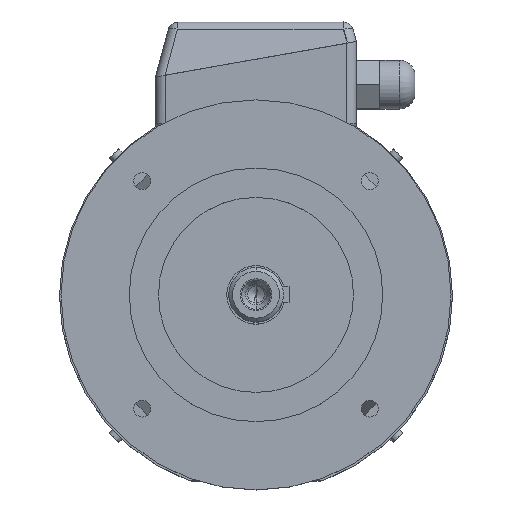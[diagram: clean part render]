
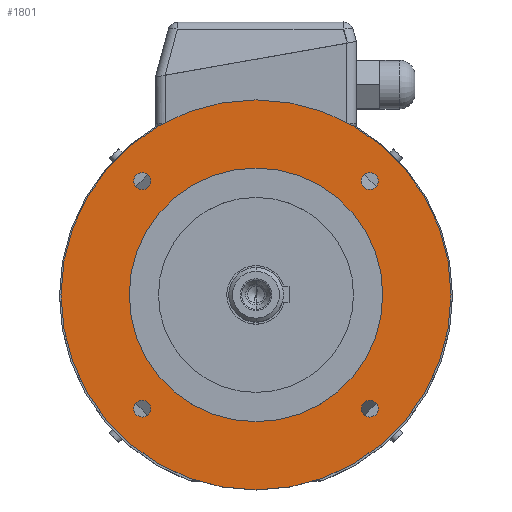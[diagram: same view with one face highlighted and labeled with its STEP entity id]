
A CAD part, top view. The second image highlights one B-rep face of the part: STEP entity #1801.
In plain terms, the highlighted planar face has unit normal (0, 0, 1).
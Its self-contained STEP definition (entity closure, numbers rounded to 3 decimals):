
#75 = CARTESIAN_POINT ( 'NONE',  ( 62.636, -58.336, 45. ) ) ;
#84 = EDGE_LOOP ( 'NONE', ( #18561, #16816 ) ) ;
#16586 = EDGE_LOOP ( 'NONE', ( #15970, #17545 ) ) ;
#325 = EDGE_CURVE ( 'NONE', #10749, #12081, #15064, .T. ) ;
#369 = ORIENTED_EDGE ( 'NONE', *, *, #14392, .F. ) ;
#16816 = ORIENTED_EDGE ( 'NONE', *, *, #2216, .T. ) ;
#451 = CIRCLE ( 'NONE', #452, 4.3 ) ;
#452 = AXIS2_PLACEMENT_3D ( 'NONE', #453, #460, #461 ) ;
#453 = CARTESIAN_POINT ( 'NONE',  ( 58.336, -58.336, 45. ) ) ;
#460 = DIRECTION ( 'NONE',  ( 0., 0., 1. ) ) ;
#461 = DIRECTION ( 'NONE',  ( 1., 0., 0. ) ) ;
#17156 = EDGE_CURVE ( 'NONE', #14751, #9347, #12029, .T. ) ;
#973 = EDGE_CURVE ( 'NONE', #14339, #12911, #15521, .T. ) ;
#17545 = ORIENTED_EDGE ( 'NONE', *, *, #17156, .F. ) ;
#1225 = CARTESIAN_POINT ( 'NONE',  ( 54.036, -58.336, 45. ) ) ;
#17670 = CIRCLE ( 'NONE', #17671, 4.3 ) ;
#17671 = AXIS2_PLACEMENT_3D ( 'NONE', #17672, #17673, #17674 ) ;
#17672 = CARTESIAN_POINT ( 'NONE',  ( 58.336, -58.336, 45. ) ) ;
#17673 = DIRECTION ( 'NONE',  ( 0., 0., 1. ) ) ;
#17674 = DIRECTION ( 'NONE',  ( 1., 0., 0. ) ) ;
#17724 = CARTESIAN_POINT ( 'NONE',  ( 0., 65., 45. ) ) ;
#17949 = CIRCLE ( 'NONE', #17950, 65. ) ;
#17950 = AXIS2_PLACEMENT_3D ( 'NONE', #17951, #17952, #17953 ) ;
#17951 = CARTESIAN_POINT ( 'NONE',  ( 0., 0., 45. ) ) ;
#17952 = DIRECTION ( 'NONE',  ( 0., 0., -1. ) ) ;
#17953 = DIRECTION ( 'NONE',  ( 0., 1., 0. ) ) ;
#1801 = ADVANCED_FACE ( 'NONE', ( #15989, #15990, #15991, #15992, #15993, #15994 ), #15995, .T. ) ;
#2088 = ORIENTED_EDGE ( 'NONE', *, *, #973, .F. ) ;
#18561 = ORIENTED_EDGE ( 'NONE', *, *, #3802, .T. ) ;
#18562 = EDGE_LOOP ( 'NONE', ( #3804, #2784 ) ) ;
#2216 = EDGE_CURVE ( 'NONE', #15371, #3530, #16265, .T. ) ;
#18849 = ORIENTED_EDGE ( 'NONE', *, *, #11008, .F. ) ;
#2500 = EDGE_LOOP ( 'NONE', ( #2088, #369 ) ) ;
#2784 = ORIENTED_EDGE ( 'NONE', *, *, #5931, .F. ) ;
#2984 = CARTESIAN_POINT ( 'NONE',  ( 0., 100., 45. ) ) ;
#3240 = CIRCLE ( 'NONE', #3241, 100. ) ;
#3241 = AXIS2_PLACEMENT_3D ( 'NONE', #3242, #3243, #3244 ) ;
#3242 = CARTESIAN_POINT ( 'NONE',  ( 0., 0., 45. ) ) ;
#3243 = DIRECTION ( 'NONE',  ( 0., 0., -1. ) ) ;
#3244 = DIRECTION ( 'NONE',  ( 0., 1., 0. ) ) ;
#3408 = EDGE_CURVE ( 'NONE', #5669, #7150, #17670, .T. ) ;
#3433 = ORIENTED_EDGE ( 'NONE', *, *, #325, .F. ) ;
#3530 = VERTEX_POINT ( 'NONE', #17724 ) ;
#3802 = EDGE_CURVE ( 'NONE', #3530, #15371, #17949, .T. ) ;
#3804 = ORIENTED_EDGE ( 'NONE', *, *, #3408, .F. ) ;
#3927 = CIRCLE ( 'NONE', #3928, 4.3 ) ;
#3928 = AXIS2_PLACEMENT_3D ( 'NONE', #3935, #3936, #3937 ) ;
#3935 = CARTESIAN_POINT ( 'NONE',  ( -58.336, 58.336, 45. ) ) ;
#3936 = DIRECTION ( 'NONE',  ( 0., 0., 1. ) ) ;
#3937 = DIRECTION ( 'NONE',  ( 1., 0., 0. ) ) ;
#4251 = CARTESIAN_POINT ( 'NONE',  ( -54.036, -58.336, 45. ) ) ;
#4395 = CIRCLE ( 'NONE', #4396, 4.3 ) ;
#4396 = AXIS2_PLACEMENT_3D ( 'NONE', #4397, #4398, #4399 ) ;
#4397 = CARTESIAN_POINT ( 'NONE',  ( -58.336, -58.336, 45. ) ) ;
#4398 = DIRECTION ( 'NONE',  ( 0., 0., 1. ) ) ;
#4399 = DIRECTION ( 'NONE',  ( 1., 0., 0. ) ) ;
#5411 = CARTESIAN_POINT ( 'NONE',  ( -62.636, -58.336, 45. ) ) ;
#5669 = VERTEX_POINT ( 'NONE', #75 ) ;
#5931 = EDGE_CURVE ( 'NONE', #7150, #5669, #451, .T. ) ;
#6310 = CARTESIAN_POINT ( 'NONE',  ( 54.036, 58.336, 45. ) ) ;
#6668 = CARTESIAN_POINT ( 'NONE',  ( -54.036, 58.336, 45. ) ) ;
#7150 = VERTEX_POINT ( 'NONE', #1225 ) ;
#7351 = CIRCLE ( 'NONE', #7352, 4.3 ) ;
#7352 = AXIS2_PLACEMENT_3D ( 'NONE', #7353, #7354, #7355 ) ;
#7353 = CARTESIAN_POINT ( 'NONE',  ( -58.336, 58.336, 45. ) ) ;
#7354 = DIRECTION ( 'NONE',  ( 0., 0., 1. ) ) ;
#7355 = DIRECTION ( 'NONE',  ( 1., 0., 0. ) ) ;
#8111 = CARTESIAN_POINT ( 'NONE',  ( -62.636, 58.336, 45. ) ) ;
#8418 = CARTESIAN_POINT ( 'NONE',  ( 62.636, 58.336, 45. ) ) ;
#8682 = CIRCLE ( 'NONE', #8683, 4.3 ) ;
#8683 = AXIS2_PLACEMENT_3D ( 'NONE', #8684, #8685, #8686 ) ;
#8684 = CARTESIAN_POINT ( 'NONE',  ( 58.336, 58.336, 45. ) ) ;
#8685 = DIRECTION ( 'NONE',  ( 0., 0., 1. ) ) ;
#8686 = DIRECTION ( 'NONE',  ( 1., 0., 0. ) ) ;
#9347 = VERTEX_POINT ( 'NONE', #2984 ) ;
#9605 = EDGE_CURVE ( 'NONE', #9347, #14751, #3240, .T. ) ;
#9858 = CARTESIAN_POINT ( 'NONE',  ( 0., -100., 45. ) ) ;
#10472 = EDGE_CURVE ( 'NONE', #13544, #14205, #3927, .T. ) ;
#10645 = CARTESIAN_POINT ( 'NONE',  ( 0., -65., 45. ) ) ;
#10678 = ORIENTED_EDGE ( 'NONE', *, *, #10472, .F. ) ;
#10749 = VERTEX_POINT ( 'NONE', #4251 ) ;
#11008 = EDGE_CURVE ( 'NONE', #12081, #10749, #4395, .T. ) ;
#11299 = EDGE_LOOP ( 'NONE', ( #10678, #14123 ) ) ;
#12029 = CIRCLE ( 'NONE', #12030, 100. ) ;
#12030 = AXIS2_PLACEMENT_3D ( 'NONE', #12031, #12035, #12036 ) ;
#12031 = CARTESIAN_POINT ( 'NONE',  ( 0., 0., 45. ) ) ;
#12035 = DIRECTION ( 'NONE',  ( 0., 0., -1. ) ) ;
#12036 = DIRECTION ( 'NONE',  ( 0., 1., 0. ) ) ;
#12081 = VERTEX_POINT ( 'NONE', #5411 ) ;
#12911 = VERTEX_POINT ( 'NONE', #6310 ) ;
#13544 = VERTEX_POINT ( 'NONE', #6668 ) ;
#13940 = EDGE_CURVE ( 'NONE', #14205, #13544, #7351, .T. ) ;
#14045 = EDGE_LOOP ( 'NONE', ( #3433, #18849 ) ) ;
#14123 = ORIENTED_EDGE ( 'NONE', *, *, #13940, .F. ) ;
#14205 = VERTEX_POINT ( 'NONE', #8111 ) ;
#14339 = VERTEX_POINT ( 'NONE', #8418 ) ;
#14392 = EDGE_CURVE ( 'NONE', #12911, #14339, #8682, .T. ) ;
#14751 = VERTEX_POINT ( 'NONE', #9858 ) ;
#15064 = CIRCLE ( 'NONE', #15065, 4.3 ) ;
#15065 = AXIS2_PLACEMENT_3D ( 'NONE', #15066, #15072, #15073 ) ;
#15066 = CARTESIAN_POINT ( 'NONE',  ( -58.336, -58.336, 45. ) ) ;
#15072 = DIRECTION ( 'NONE',  ( 0., 0., 1. ) ) ;
#15073 = DIRECTION ( 'NONE',  ( 1., 0., 0. ) ) ;
#15371 = VERTEX_POINT ( 'NONE', #10645 ) ;
#15521 = CIRCLE ( 'NONE', #15522, 4.3 ) ;
#15522 = AXIS2_PLACEMENT_3D ( 'NONE', #15523, #15524, #15525 ) ;
#15523 = CARTESIAN_POINT ( 'NONE',  ( 58.336, 58.336, 45. ) ) ;
#15524 = DIRECTION ( 'NONE',  ( 0., 0., 1. ) ) ;
#15525 = DIRECTION ( 'NONE',  ( 1., 0., 0. ) ) ;
#15970 = ORIENTED_EDGE ( 'NONE', *, *, #9605, .F. ) ;
#15989 = FACE_BOUND ( 'NONE', #11299, .T. ) ;
#15990 = FACE_BOUND ( 'NONE', #14045, .T. ) ;
#15991 = FACE_BOUND ( 'NONE', #18562, .T. ) ;
#15992 = FACE_BOUND ( 'NONE', #2500, .T. ) ;
#15993 = FACE_BOUND ( 'NONE', #84, .T. ) ;
#15994 = FACE_OUTER_BOUND ( 'NONE', #16586, .T. ) ;
#15995 = PLANE ( 'NONE',  #15996 ) ;
#15996 = AXIS2_PLACEMENT_3D ( 'NONE', #16003, #16004, #16005 ) ;
#16003 = CARTESIAN_POINT ( 'NONE',  ( 0., 100., 45. ) ) ;
#16004 = DIRECTION ( 'NONE',  ( 0., 0., 1. ) ) ;
#16005 = DIRECTION ( 'NONE',  ( 0., -1., 0. ) ) ;
#16265 = CIRCLE ( 'NONE', #16266, 65. ) ;
#16266 = AXIS2_PLACEMENT_3D ( 'NONE', #16267, #16268, #16269 ) ;
#16267 = CARTESIAN_POINT ( 'NONE',  ( 0., 0., 45. ) ) ;
#16268 = DIRECTION ( 'NONE',  ( 0., 0., -1. ) ) ;
#16269 = DIRECTION ( 'NONE',  ( 0., 1., 0. ) ) ;
